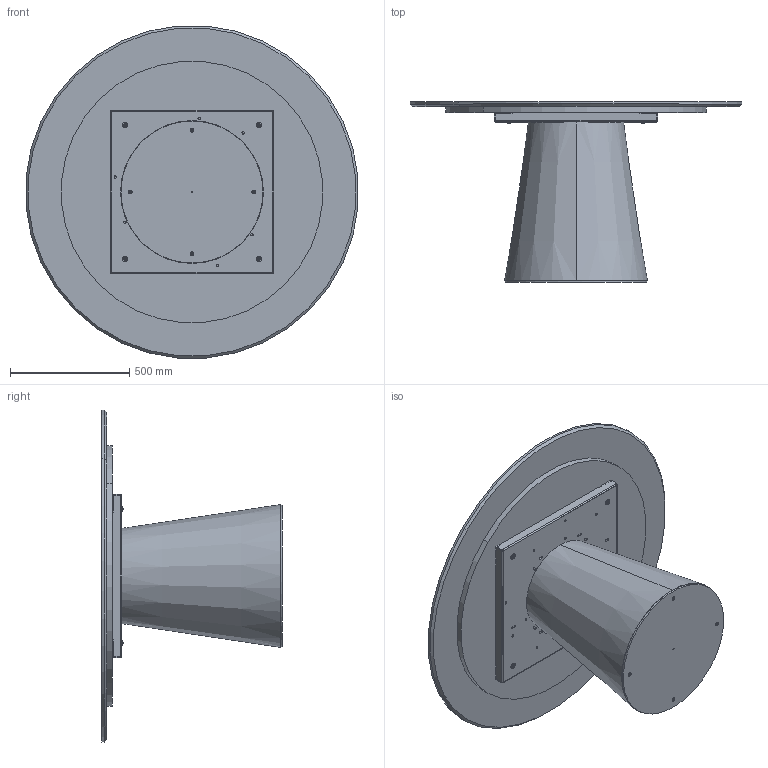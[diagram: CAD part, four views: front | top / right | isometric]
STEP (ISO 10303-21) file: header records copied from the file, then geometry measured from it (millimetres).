
FILE_DESCRIPTION (( 'STEP AP203' ), '1' );
FILE_NAME ('TO06M_Teo_d.140_Marble.STEP', '2024-08-02T09:22:02', ( '' ), ( '' ), 'SwSTEP 2.0', 'SolidWorks 2022', '' );
FILE_SCHEMA (( 'CONFIG_CONTROL_DESIGN' ));
Length unit declared in the file: millimetre
Products named in the file (14): TTAV0801-02-TELAIO UNIVERSALE TONDO; COLLO TELAIO UNIVERSALE TTAV0801 CON FERRAMENTA_MTG TOP LEGNO-MARMO-KING; rondella M8_8X24; TTAV0801-02-TELAIO UNIVERSALE TONDO-VASSOIO; TEO0000-00-TEO BASE LEGNO IMPIALLACCIATA LEVIGATO PRONTA X VERNICE; TTAV0801 TELAIO UNIVERSALE TONDO-PIASTRINA; TRU0000X-00-SOTTO PIANO D.XXXXmm_TRU00002 D.110cm ; TO06M_Teo_d.140_Marble; M0X-00- D. piani marmo_D.1400; M8xXXmm_M8x55mm; M8xXXmm_hex_M8X20mm; BASE TED LEGNO CON ZAVORRA; M0XMXX-00-Piani Rotondi in marmo 2024_1400; TEO000000PIA-00-TEO PIASTRA DI BASE IN METALLO GREZZO
Assembly tree (25 placements, depth 4):
  TO06M_Teo_d.140_Marble
    BASE TED LEGNO CON ZAVORRA
      TEO000000PIA-00-TEO PIASTRA DI BASE IN METALLO GREZZO
      TEO0000-00-TEO BASE LEGNO IMPIALLACCIATA LEVIGATO PRONTA X VERNICE
      M8xXXmm_hex_M8X20mm  x4
    COLLO TELAIO UNIVERSALE TTAV0801 CON FERRAMENTA_MTG TOP LEGNO-MARMO-KING
      TTAV0801-02-TELAIO UNIVERSALE TONDO
        TTAV0801-02-TELAIO UNIVERSALE TONDO-VASSOIO
        TTAV0801 TELAIO UNIVERSALE TONDO-PIASTRINA  x4
      rondella M8_8X24  x4
      M8xXXmm_M8x55mm  x4
    M0XMXX-00-Piani Rotondi in marmo 2024_1400
      M0X-00- D. piani marmo_D.1400
      TRU0000X-00-SOTTO PIANO D.XXXXmm_TRU00002 D.110cm 
Bounding box: 1394.67 x 758.19 x 1394.67 mm (x, y, z)
Volume: 84571649.1 mm3; surface area: 9555904.8 mm2
Topology: 21 solids, 21 shells, 818 faces, 2040 edges, 1253 vertices
Faces by surface type: plane 372, cylinder 296, cone 94, torus 56
Entity records: 16156 total; most frequent: DIRECTION 2608, CARTESIAN_POINT 2504, ORIENTED_EDGE 2378, EDGE_CURVE 1189, AXIS2_PLACEMENT_3D 948, VERTEX_POINT 758, VECTOR 712, LINE 712
